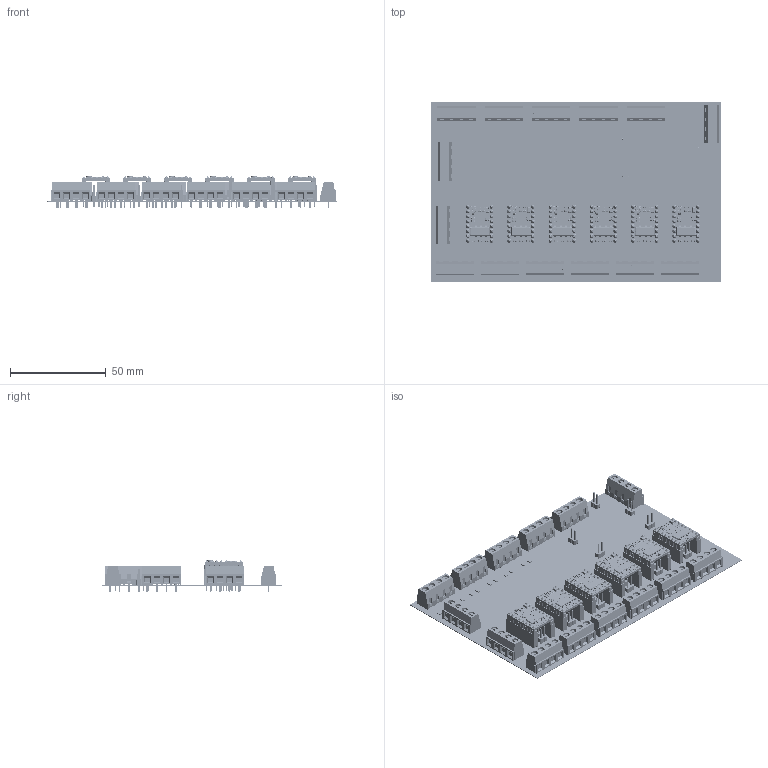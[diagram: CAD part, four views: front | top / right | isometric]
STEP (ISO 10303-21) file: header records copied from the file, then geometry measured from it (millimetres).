
FILE_DESCRIPTION(('Open CASCADE Model'),'2;1');
FILE_NAME('Open CASCADE Shape Model','2024-05-09T15:41:56',('Author'),( 'Open CASCADE'),'Open CASCADE STEP processor 6.8','Open CASCADE 6.8' ,'Unknown');
FILE_SCHEMA(('AUTOMOTIVE_DESIGN { 1 0 10303 214 1 1 1 1 }'));
Length unit declared in the file: millimetre
Products named in the file (79): PCB; Board; Open CASCADE STEP translator 6.8 5.1.1; DC-DC_24-; User_Library-HDR1X1_Rectangular_Straight; DC-DC_5+; PWM; DC-DC_24+; DC-DC_5-; GRIPPER_servo; c-282836-4-j-3d; CE1; 1252814024; Extruded; 1252814144; CE2; CE3; CE4; CE5; CE6; CE7; CE8; CE9; CE10; CE11; CE12; DJ1; DRV8825; DRV8825_Driver_v9; DRV8825_53TG5_CLV1; Package; Solder_joints; RI00_v1; 152_v2; EDI_v3; CAP; Cap_Small; Voltage_Regulator; 2.54_4W_Header; header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
Assembly tree (192 placements, depth 6):
  PCB
    Board
      Open CASCADE STEP translator 6.8 5.1.1
    DC-DC_24-
      User_Library-HDR1X1_Rectangular_Straight  x2
    DC-DC_5+
      User_Library-HDR1X1_Rectangular_Straight  x2
    PWM
      User_Library-HDR1X1_Rectangular_Straight  x2
    DC-DC_24+
      User_Library-HDR1X1_Rectangular_Straight  x2
    DC-DC_5-
      User_Library-HDR1X1_Rectangular_Straight  x2
    GRIPPER_servo
      c-282836-4-j-3d
    CE1
      1252814024
        Extruded
      1252814144  x2
        Extruded
    CE2
      1252814024
        Extruded
      1252814144  x2
        Extruded
    CE3
      1252814024
        Extruded
      1252814144  x2
        Extruded
    CE4
      1252814024
        Extruded
      1252814144  x2
        Extruded
    CE5
      1252814024
        Extruded
      1252814144  x2
        Extruded
    CE6
      1252814024
        Extruded
      1252814144  x2
        Extruded
    CE7
      1252814024
        Extruded
      1252814144  x2
        Extruded
    CE8
      1252814024
        Extruded
      1252814144  x2
        Extruded
    CE9
      1252814024
        Extruded
      1252814144  x2
        Extruded
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Bounding box: 151.51 x 94.11 x 16.68 mm (x, y, z)
Volume: 33801.1 mm3; surface area: 72851.9 mm2
Topology: 781 solids, 781 shells, 30885 faces, 79741 edges, 51116 vertices
Faces by surface type: plane 22679, bspline 6996, cylinder 1180, cone 30
Full cylindrical faces by diameter (mm): 0.273 x96, 0.305 x48, 0.5 x90, 0.534 x6, 0.6 x6, 0.8 x6, 0.891 x12, 1 x96, 1.6 x6, 3 x6
Entity records: 142293 total; most frequent: CARTESIAN_POINT 46537, ORIENTED_EDGE 19784, DIRECTION 15091, EDGE_CURVE 9892, LINE 7697, VECTOR 7697, VERTEX_POINT 6471, FACE_BOUND 4081
